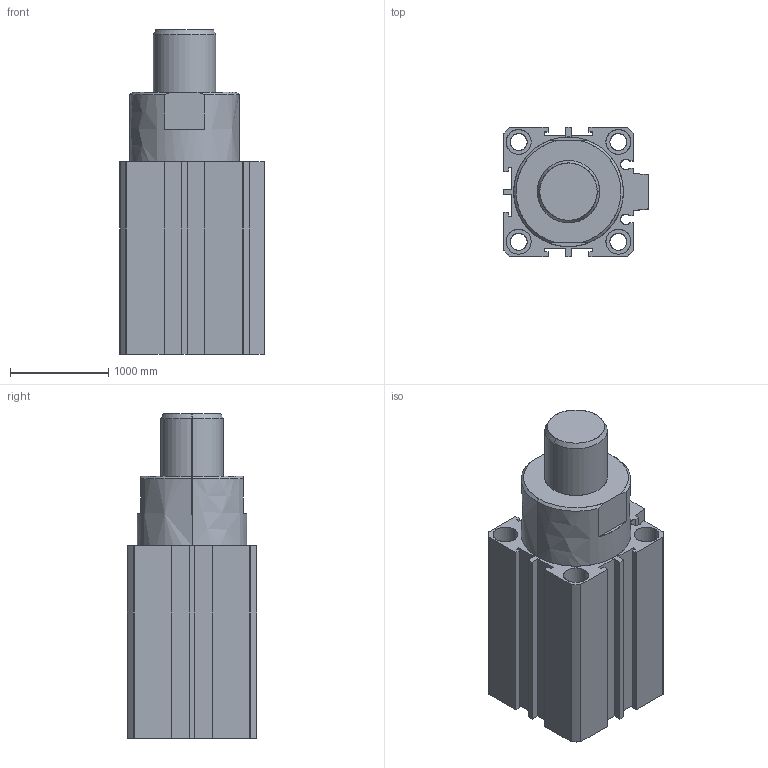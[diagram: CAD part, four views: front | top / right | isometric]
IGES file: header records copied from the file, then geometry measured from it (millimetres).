
Start section: SolidWorks IGES file using analytic representation for surfaces
Global section: file name: C:\Documents and Settings\Standard\Bureau\NM pieces 3d\ELO 40 25 tige sortie.IGS; native system: SolidWorks 2007; preprocessor: SolidWorks 2007; author: Standard; date: 080328.104650; units: inch
Bounding box: 1473.2 x 1320.8 x 3307.08 mm (x, y, z)
Surface area: 33237853.1 mm2 (no closed solid volume)
Topology: 0 solids, 0 shells, 538 faces, 13389 edges, 13427 vertices
Faces by surface type: bspline 483, revolution 55
